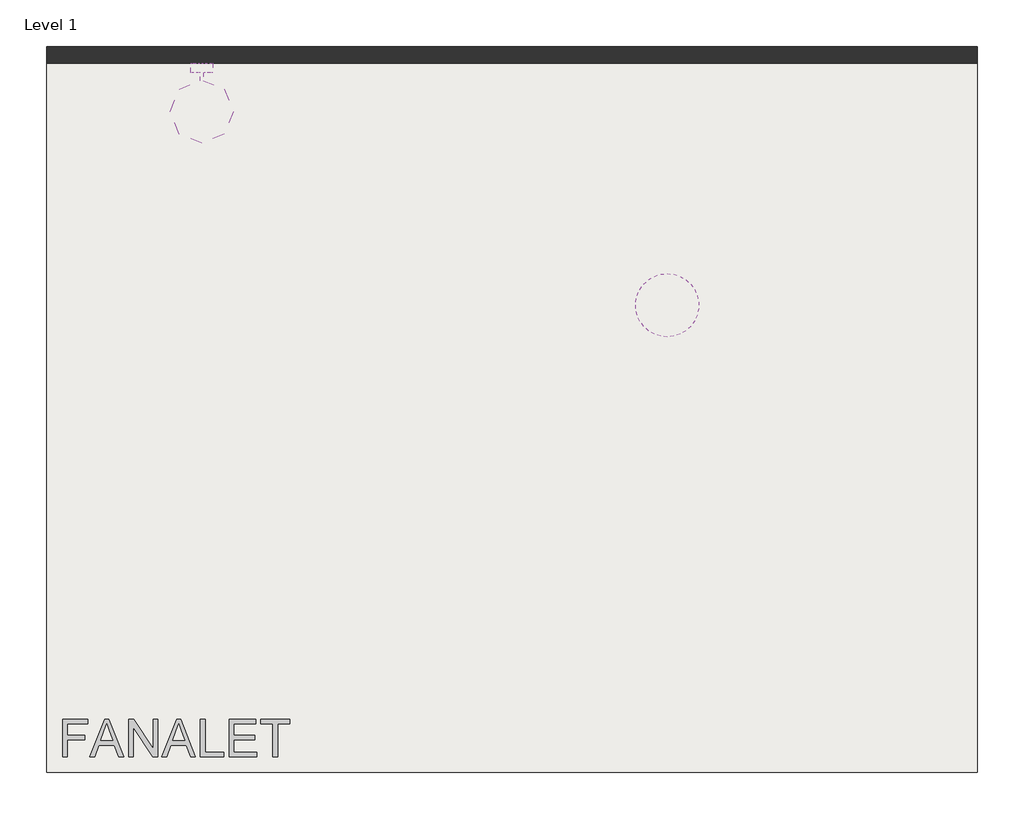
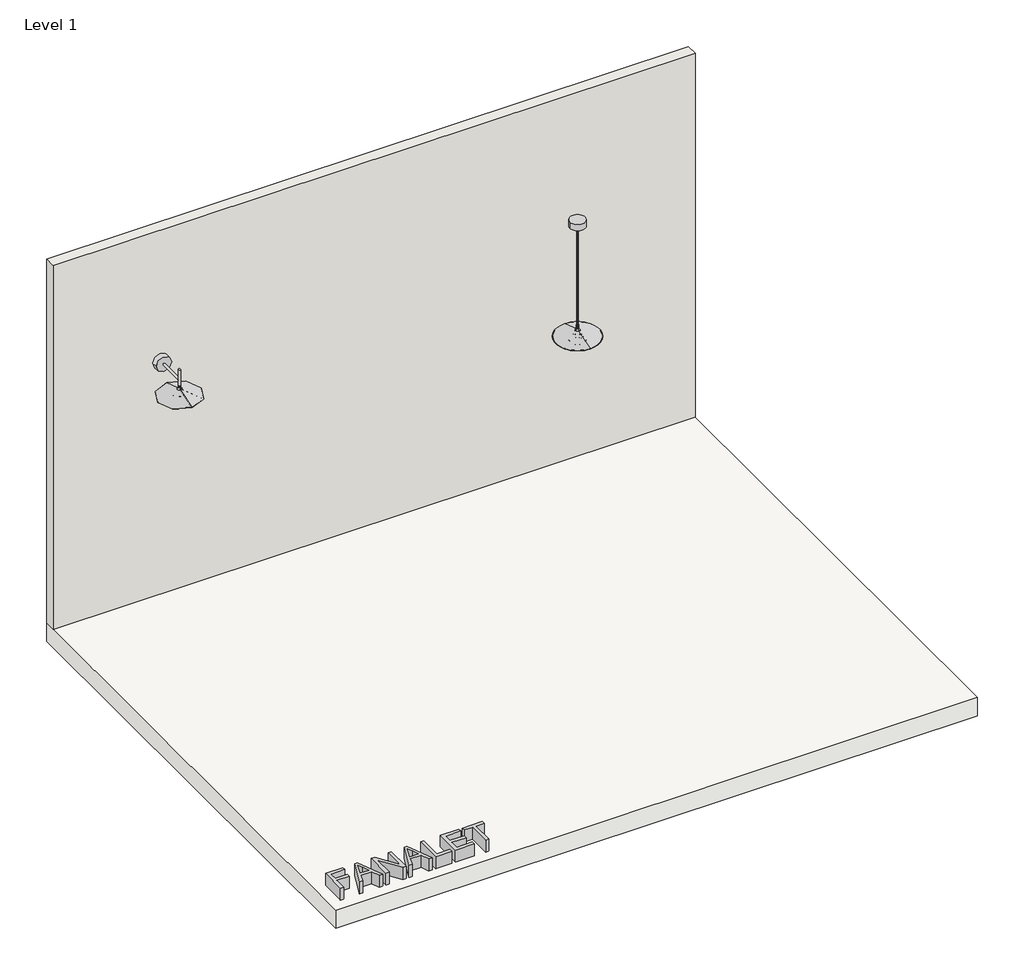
# One storey, incomplete: 2 light fixtures, 1 proxy, 1 slab, 1 wall.
"""IFC4 building model written with IfcOpenShell, lengths in millimetres."""

from ifc_helpers import new_model, si_unit, frame, origin, origin_with_axes, place, context, project, spatial, polyline, outline, extrude, transform, mapped, element, save
from components import light_fixture_f4510032, light_fixture_776fbf6a

model = new_model("IFC4")

# Units and contexts
model_context = context("Model", 3, world=origin())
ifc_project = project(units=[si_unit("LENGTHUNIT", "METRE", prefix="MILLI")], contexts=[model_context])

# Site, building, storey
site = spatial("IfcSite", under=ifc_project)
building = spatial("IfcBuilding", under=site)
storey = spatial("IfcBuildingStorey", under=building, Name="Level 1", Elevation=0.0)

# Proxy
placement = place(None, origin())
element("IfcBuildingElementProxy", 1, Name="200mm Arial", ObjectType="200mm Arial", at=placement, inside=storey, context=model_context, shape_type="SweptSolid", body=[
    extrude(outline(polyline([(-8319.1902574, 798.4307978), (-8319.1902574, 999.3434181), (-8184.2020906, 999.3434181), (-8184.2020906, 974.2293406), (-8294.0761799, 974.2293406), (-8294.0761799, 914.5834064), (-8199.8983891, 914.5834064), (-8199.8983891, 889.4693289), (-8294.0761799, 889.4693289), (-8294.0761799, 798.4307978), (-8319.1902574, 798.4307978)])), origin_with_axes(), (0.0, 0.0, 1.0), 100.0),
    extrude(outline(polyline([(-8173.018478, 798.4307978), (-8092.820203, 999.3434181), (-8071.4339964, 999.3434181), (-7991.2847724, 798.4307978), (-8017.8213269, 798.4307978), (-8040.7771634, 861.2159917), (-8123.5751378, 861.2159917), (-8146.5309743, 798.4307978), (-8173.018478, 798.4307978)]), holes=[polyline([(-8114.3535625, 886.3300692), (-8049.9496879, 886.3300692), (-8068.098533, 935.7243584), (-8082.1761506, 974.2293406), (-8094.6841385, 940.0408405), (-8114.3535625, 886.3300692)])]), origin_with_axes(), (0.0, 0.0, 1.0), 100.0),
    extrude(outline(polyline([(-7964.4539122, 798.4307978), (-7964.4539122, 999.3434181), (-7937.5740011, 999.3434181), (-7832.6050051, 840.1731415), (-7832.6050051, 999.3434181), (-7807.4909276, 999.3434181), (-7807.4909276, 798.4307978), (-7834.3708387, 798.4307978), (-7939.3398346, 957.6501253), (-7939.3398346, 798.4307978), (-7964.4539122, 798.4307978)])), origin_with_axes(), (0.0, 0.0, 1.0), 100.0),
    extrude(outline(polyline([(-7786.8895358, 798.4307978), (-7706.6912609, 999.3434181), (-7685.3050542, 999.3434181), (-7605.1558302, 798.4307978), (-7631.6923848, 798.4307978), (-7654.6482213, 861.2159917), (-7737.4461957, 861.2159917), (-7760.4020322, 798.4307978), (-7786.8895358, 798.4307978)]), holes=[polyline([(-7728.2246203, 886.3300692), (-7663.8207457, 886.3300692), (-7681.9695908, 935.7243584), (-7696.0472085, 974.2293406), (-7708.5551963, 940.0408405), (-7728.2246203, 886.3300692)])]), origin_with_axes(), (0.0, 0.0, 1.0), 100.0),
    extrude(outline(polyline([(-7578.32497, 798.4307978), (-7578.32497, 999.3434181), (-7553.2108925, 999.3434181), (-7553.2108925, 823.5448753), (-7452.7545824, 823.5448753), (-7452.7545824, 798.4307978), (-7578.32497, 798.4307978)])), origin_with_axes(), (0.0, 0.0, 1.0), 100.0),
    extrude(outline(polyline([(-7424.5012451, 798.4307978), (-7424.5012451, 999.3434181), (-7280.0952993, 999.3434181), (-7280.0952993, 974.2293406), (-7399.3871676, 974.2293406), (-7399.3871676, 914.5834064), (-7286.3738187, 914.5834064), (-7286.3738187, 889.4693289), (-7399.3871676, 889.4693289), (-7399.3871676, 823.5448753), (-7276.9560396, 823.5448753), (-7276.9560396, 798.4307978), (-7424.5012451, 798.4307978)])), origin_with_axes(), (0.0, 0.0, 1.0), 100.0),
    extrude(outline(polyline([(-7189.0567682, 798.4307978), (-7189.0567682, 974.2293406), (-7254.9812218, 974.2293406), (-7254.9812218, 999.3434181), (-7098.0182371, 999.3434181), (-7098.0182371, 974.2293406), (-7163.9426907, 974.2293406), (-7163.9426907, 798.4307978), (-7189.0567682, 798.4307978)])), origin_with_axes(), (0.0, 0.0, 1.0), 100.0),
])

# Light fixtures
light_fixture_shape = light_fixture_f4510032(model_context)
element("IfcLightFixture", 2, ObjectType="BOVER_FANALET-A01-OUTDOOR_USA : FANALET_A01_TRIAC_U", at=placement, inside=storey, context=model_context, shape_type="MappedRepresentation", body=[
    mapped(light_fixture_shape, transform((-7571.7568507, 4525.2076786, 1926.2225849), x_axis=(1.0, 0.0, 0.0), y_axis=(0.0, 0.0, 1.0), z_axis=(0.0, -1.0, 0.0))),
])
light_fixture_2_shape = light_fixture_776fbf6a(model_context)
element("IfcLightFixture", 3, ObjectType="BOVER_FANALET-S35-OUTDOOR_USA : FANALET_S35_TRIAC_U", at=placement, inside=storey, context=model_context, shape_type="MappedRepresentation", body=[
    mapped(light_fixture_2_shape, transform((-5071.7568507, 3224.5560002, 3000.0), x_axis=(1.0, 0.0, 0.0), y_axis=(0.0, -1.0, 0.0), z_axis=(0.0, 0.0, -1.0))),
])

# Slab
element("IfcSlab", 4, ObjectType="Generic Floor - 150mm", at=placement, inside=storey, context=model_context, shape_type="SweptSolid", body=[
    extrude(outline(polyline([(-3405.090184, 4615.2076786), (-3405.090184, 715.2076786), (-8405.090184, 715.2076786), (-8405.090184, 4615.2076786), (-3405.090184, 4615.2076786)])), frame((0.0, 0.0, -150.0), z_axis=(0.0, 0.0, 1.0), x_axis=(1.0, 0.0, 0.0)), (0.0, 0.0, 1.0), 150.0),
])

# Wall
element("IfcWall", 5, ObjectType="Generic - 90mm Brick", at=placement, inside=storey, context=model_context, shape_type="SweptSolid", body=[
    extrude(outline(polyline([(-3405.090184, 4525.2076786), (-8405.090184, 4525.2076786), (-8405.090184, 4615.2076786), (-3405.090184, 4615.2076786), (-3405.090184, 4525.2076786)])), origin_with_axes(), (0.0, 0.0, 1.0), 3000.0),
])

save(model, "model.ifc")
